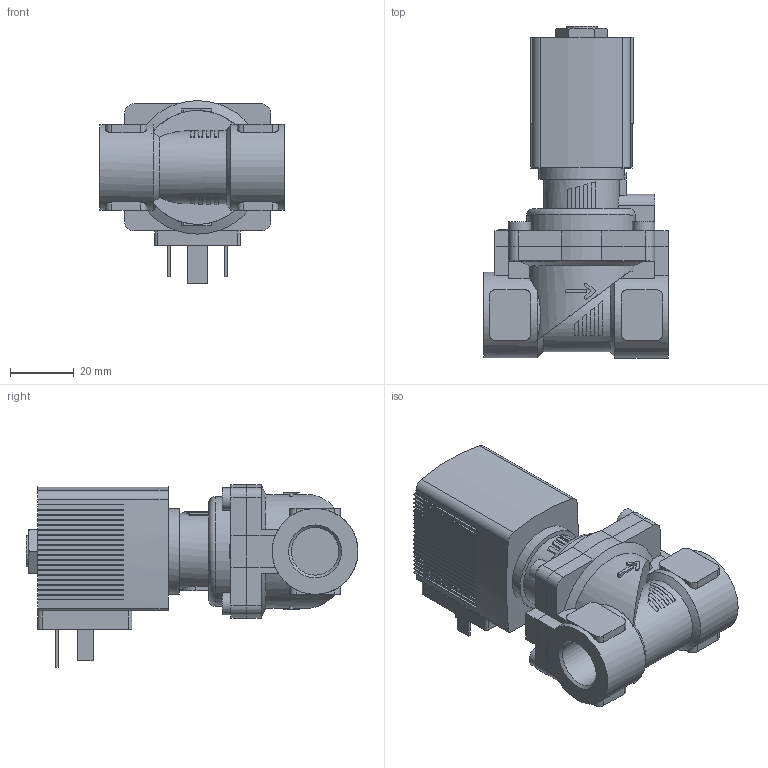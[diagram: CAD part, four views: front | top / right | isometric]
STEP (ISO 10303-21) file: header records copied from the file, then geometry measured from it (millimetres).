
FILE_DESCRIPTION(/* description */ ('STEP AP214'),/* implementation_level */ '2;1');
FILE_NAME(/* name */ '6281-242998-2_2-Way_Solenoid_Valve__Servo-assisted__General_Purpose',/* time_stamp */ '2024-05-14T15:55:52+02:00',/* author */ ('License CC BY-ND 4.0'),/* organization */ ('CADENAS'),/* preprocessor_version */ 'ST-DEVELOPER v19.3',/* originating_system */ 'PARTsolutions',/* authorisation */ ' ');
FILE_SCHEMA (('AUTOMOTIVE_DESIGN {1 0 10303 214 3 1 1}'));
Length unit declared in the file: millimetre
Products named in the file (4): 6281-242998-2/2-Way Solenoid Valve, Servo-assisted, General Purpose; 5281ev130MS2/2-Wege-Magnetventil mit Servomembran-Deckel 42 ; 6213-13G3/8MS-Gehaeuse-; AC10ex-5OO-Plan-Coil
Assembly tree (3 placements, depth 2):
  6281-242998-2/2-Way Solenoid Valve, Servo-assisted, General Purpose
    5281ev130MS2/2-Wege-Magnetventil mit Servomembran-Deckel 42 
    6213-13G3/8MS-Gehaeuse-
    AC10ex-5OO-Plan-Coil
Bounding box: 58 x 104.5 x 57.5 mm (x, y, z)
Volume: 121656.5 mm3; surface area: 28811.4 mm2
Topology: 3 solids, 3 shells, 540 faces, 1494 edges, 986 vertices
Faces by surface type: plane 436, cylinder 88, cone 15, torus 1
Full cylindrical faces by diameter (mm): 2.013 x1, 7 x4, 9.74 x1, 14.95 x2, 27 x2
Entity records: 19834 total; most frequent: CARTESIAN_POINT 3253, ORIENTED_EDGE 2946, DIRECTION 2818, EDGE_CURVE 1473, LINE 1082, VECTOR 1082, VERTEX_POINT 979, AXIS2_PLACEMENT_3D 868
